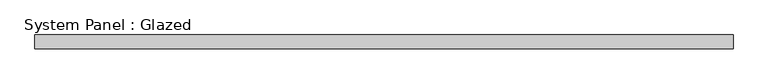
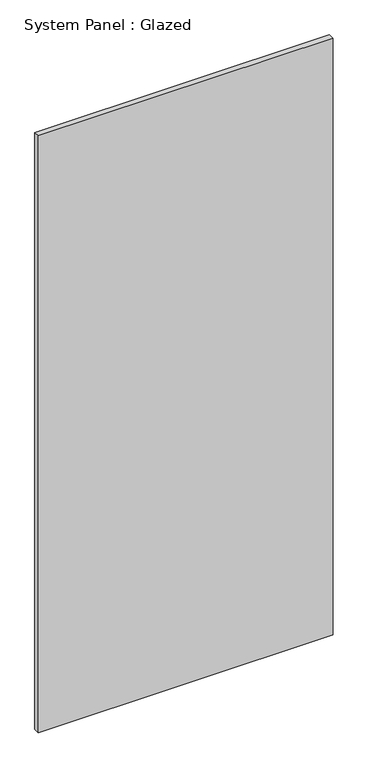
"""IFC4 building model written with IfcOpenShell, lengths in millimetres: plate geometry, System Panel : Glazed."""

from ifc_helpers import new_model, si_unit, origin, origin_with_axes, place, context, project, spatial, polyline, outline, extrude, source, transform, mapped, element, save


def system_panel_glazed_36e52168(model_context):
    return source(origin(), model_context, "Body", "SweptSolid", [
        extrude(outline(polyline([(651.3841819, 19.05), (-651.3841819, 19.05), (-651.3841819, 44.45), (651.3841819, 44.45), (651.3841819, 19.05)])), origin_with_axes(), (0.0, 0.0, 1.0), 2788.92),
    ])


if __name__ == "__main__":
    model = new_model("IFC4")
    model_context = context("Model", 3, world=origin())
    ifc_project = project(units=[si_unit("LENGTHUNIT", "METRE", prefix="MILLI")], contexts=[model_context])
    site = spatial("IfcSite", under=ifc_project)
    building = spatial("IfcBuilding", under=site)
    placement = place(None, origin())
    system_panel_glazed_shape = system_panel_glazed_36e52168(model_context)
    element("IfcPlate", 1, ObjectType="System Panel : Glazed", at=placement, inside=building, context=model_context, shape_type="MappedRepresentation", body=[
        mapped(system_panel_glazed_shape, transform((0.0, 0.0, 0.0), x_axis=(1.0, 0.0, 0.0), y_axis=(0.0, 1.0, 0.0), z_axis=(0.0, 0.0, 1.0))),
    ])
    save(model, "model.ifc")
